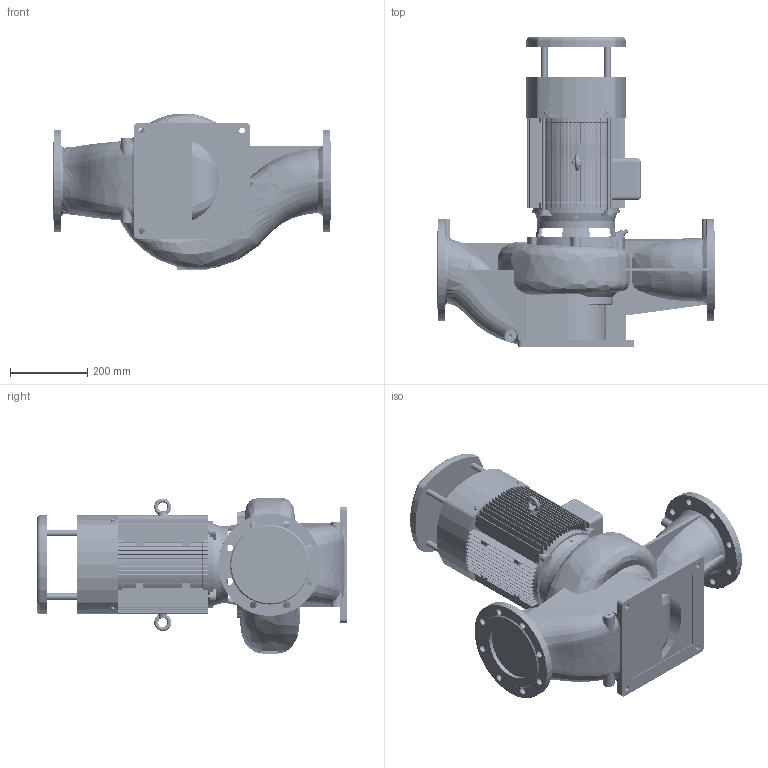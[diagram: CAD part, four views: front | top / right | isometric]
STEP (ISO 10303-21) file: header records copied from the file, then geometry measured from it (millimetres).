
FILE_DESCRIPTION (( 'STEP AP203' ), '1' );
FILE_NAME ('LLT150-6-7.5.STEP', '2025-12-24T07:01:07', ( '' ), ( '' ), 'SwSTEP 2.0', 'SolidWorks 2018', '' );
FILE_SCHEMA (( 'CONFIG_CONTROL_DESIGN' ));
Products named in the file (4): YE3-132-IMV18 萇儂; LLT150-6-7.5; LLT150掙芛; LLT150
Assembly tree (3 placements, depth 2):
  LLT150-6-7.5
    LLT150
    LLT150掙芛
    YE3-132-IMV18 萇儂
Bounding box: 720 x 803 x 406.07 mm (x, y, z)
Volume: 34301340.9 mm3; surface area: 3737079.9 mm2
Topology: 8 solids, 101 shells, 8864 faces, 24344 edges, 15735 vertices
Faces by surface type: plane 5030, cylinder 1301, bspline 1182, cone 1032, torus 306, sphere 13
Entity records: 382964 total; most frequent: CARTESIAN_POINT 165243, ORIENTED_EDGE 48528, DIRECTION 39885, EDGE_CURVE 24306, VERTEX_POINT 15735, VECTOR 14681, LINE 14681, AXIS2_PLACEMENT_3D 12602
